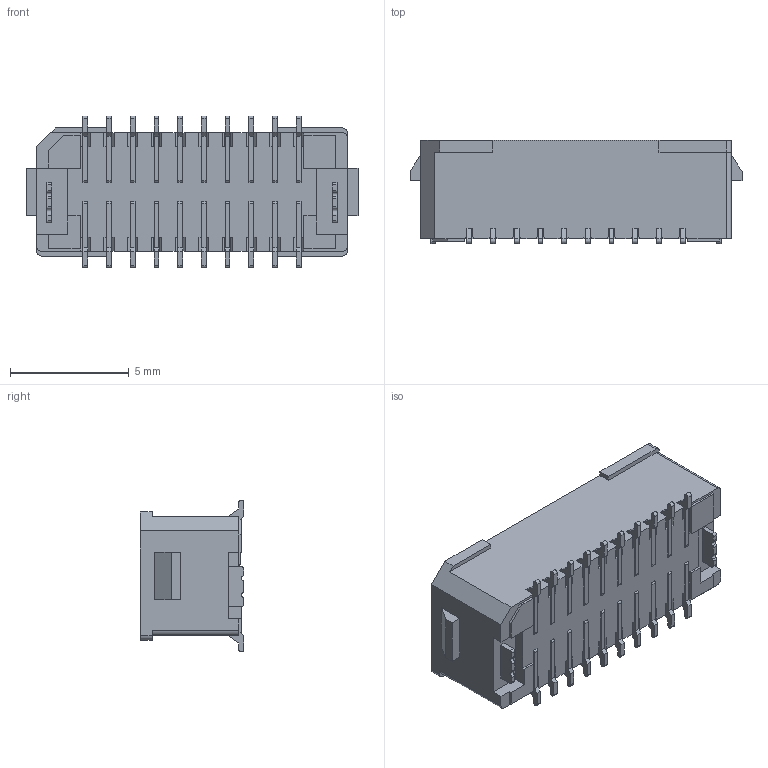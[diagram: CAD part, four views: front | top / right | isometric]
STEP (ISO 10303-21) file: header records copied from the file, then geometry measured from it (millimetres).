
FILE_DESCRIPTION((''),'2;1');
FILE_NAME('S-51439-020XX-XXX_REV-1','2022-07-06T',('k99883'),(''),'PRO/ENGINEER BY PARAMETRIC TECHNOLOGY CORPORATION, 2012010','PRO/ENGINEER BY PARAMETRIC TECHNOLOGY CORPORATION, 2012010','');
FILE_SCHEMA(('CONFIG_CONTROL_DESIGN'));
Length unit declared in the file: millimetre
Products named in the file (1): S-51439-020XX-XXX_REV-1
Bounding box: 14 x 4.35 x 6.4 mm (x, y, z)
Volume: 139.9 mm3; surface area: 490.7 mm2
Topology: 1 solids, 1 shells, 1108 faces, 3188 edges, 2096 vertices
Faces by surface type: plane 1002, cylinder 106
Entity records: 35536 total; most frequent: CARTESIAN_POINT 6321, ORIENTED_EDGE 6196, DIRECTION 5652, EDGE_CURVE 3098, VECTOR 2928, LINE 2928, VERTEX_POINT 2004, AXIS2_PLACEMENT_3D 1362
